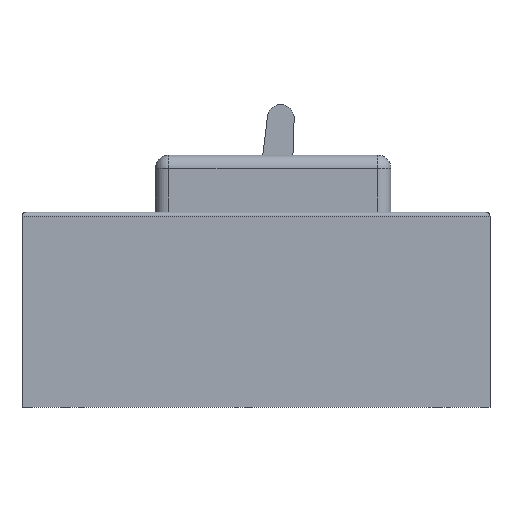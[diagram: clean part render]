
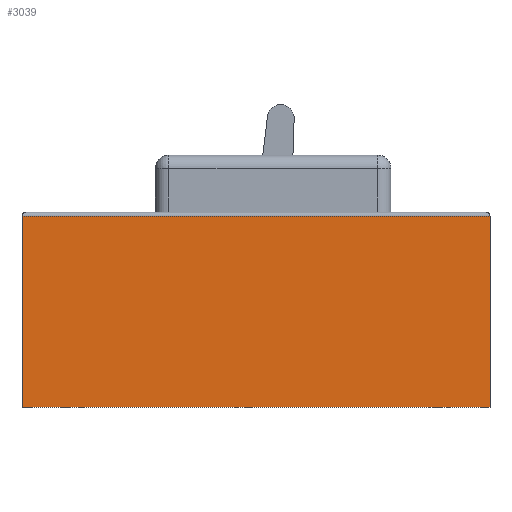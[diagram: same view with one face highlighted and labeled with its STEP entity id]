
A CAD part, left-side view. The second image highlights one B-rep face of the part: STEP entity #3039.
In plain terms, the highlighted planar face has unit normal (-1, 0, 0).
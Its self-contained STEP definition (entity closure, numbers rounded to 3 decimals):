
#21 = ORIENTED_EDGE ( 'NONE', *, *, #3041, .T. ) ;
#140 = CARTESIAN_POINT ( 'NONE',  ( -56.25, 87.5, 73. ) ) ;
#319 = LINE ( 'NONE', #554, #3687 ) ;
#417 = VERTEX_POINT ( 'NONE', #4628 ) ;
#554 = CARTESIAN_POINT ( 'NONE',  ( -56.25, 87.5, 0. ) ) ;
#596 = DIRECTION ( 'NONE',  ( 0., 0., -1. ) ) ;
#787 = VECTOR ( 'NONE', #2603, 1000. ) ;
#1038 = VECTOR ( 'NONE', #596, 1000. ) ;
#1394 = DIRECTION ( 'NONE',  ( 0., -1., 0. ) ) ;
#1440 = CARTESIAN_POINT ( 'NONE',  ( -56.25, 87.5, 71.5 ) ) ;
#1459 = LINE ( 'NONE', #1440, #3912 ) ;
#1493 = DIRECTION ( 'NONE',  ( 0., 1., 0. ) ) ;
#1513 = EDGE_CURVE ( 'NONE', #417, #4435, #319, .T. ) ;
#1903 = PLANE ( 'NONE',  #3803 ) ;
#2141 = ORIENTED_EDGE ( 'NONE', *, *, #2454, .F. ) ;
#2164 = CARTESIAN_POINT ( 'NONE',  ( -56.25, 87.5, 73. ) ) ;
#2360 = LINE ( 'NONE', #2164, #787 ) ;
#2375 = CARTESIAN_POINT ( 'NONE',  ( -56.25, -87.5, 73. ) ) ;
#2454 = EDGE_CURVE ( 'NONE', #3961, #4435, #3550, .T. ) ;
#2516 = VERTEX_POINT ( 'NONE', #2833 ) ;
#2603 = DIRECTION ( 'NONE',  ( 0., 0., -1. ) ) ;
#2833 = CARTESIAN_POINT ( 'NONE',  ( -56.25, 87.5, 71.5 ) ) ;
#3039 = ADVANCED_FACE ( 'NONE', ( #5563 ), #1903, .F. ) ;
#3041 = EDGE_CURVE ( 'NONE', #3961, #2516, #1459, .T. ) ;
#3186 = DIRECTION ( 'NONE',  ( 1., 0., 0. ) ) ;
#3393 = CARTESIAN_POINT ( 'NONE',  ( -56.25, -87.5, 71.5 ) ) ;
#3400 = CARTESIAN_POINT ( 'NONE',  ( -56.25, -87.5, 0. ) ) ;
#3550 = LINE ( 'NONE', #2375, #1038 ) ;
#3687 = VECTOR ( 'NONE', #1394, 1000. ) ;
#3803 = AXIS2_PLACEMENT_3D ( 'NONE', #140, #3186, #1493 ) ;
#3912 = VECTOR ( 'NONE', #4527, 1000. ) ;
#3961 = VERTEX_POINT ( 'NONE', #3393 ) ;
#4435 = VERTEX_POINT ( 'NONE', #3400 ) ;
#4527 = DIRECTION ( 'NONE',  ( 0., 1., 0. ) ) ;
#4610 = EDGE_LOOP ( 'NONE', ( #2141, #21, #4935, #5343 ) ) ;
#4614 = EDGE_CURVE ( 'NONE', #2516, #417, #2360, .T. ) ;
#4628 = CARTESIAN_POINT ( 'NONE',  ( -56.25, 87.5, 0. ) ) ;
#4935 = ORIENTED_EDGE ( 'NONE', *, *, #4614, .T. ) ;
#5343 = ORIENTED_EDGE ( 'NONE', *, *, #1513, .T. ) ;
#5563 = FACE_OUTER_BOUND ( 'NONE', #4610, .T. ) ;
